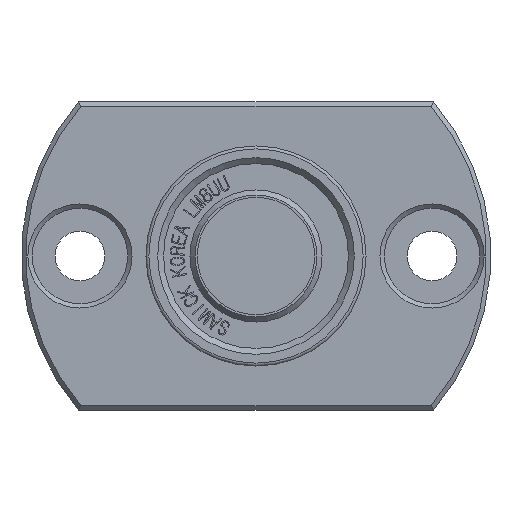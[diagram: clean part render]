
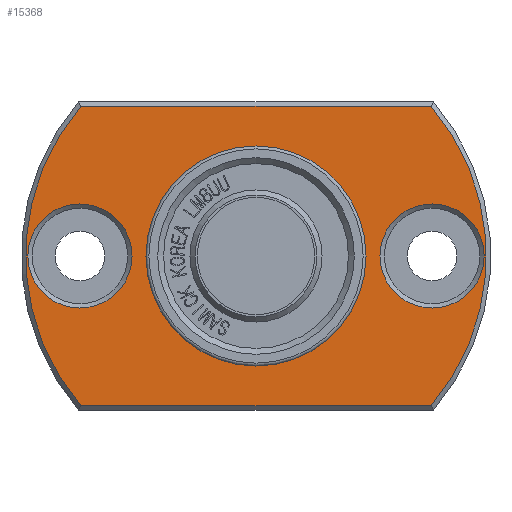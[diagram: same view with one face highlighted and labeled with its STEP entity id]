
A CAD part, front view. The second image highlights one B-rep face of the part: STEP entity #15368.
In plain terms, the highlighted planar face has unit normal (0, -1, 0).
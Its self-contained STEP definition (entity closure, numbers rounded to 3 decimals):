
#2551=FACE_BOUND('',#3665,.T.);
#2552=FACE_BOUND('',#3666,.T.);
#2553=FACE_BOUND('',#3667,.T.);
#2609=PLANE('',#16221);
#2834=FACE_OUTER_BOUND('',#3664,.T.);
#3664=EDGE_LOOP('',(#10700,#10701,#10702,#10703));
#3665=EDGE_LOOP('',(#10704));
#3666=EDGE_LOOP('',(#10705,#10706));
#3667=EDGE_LOOP('',(#10707));
#4552=LINE('',#18275,#5648);
#4553=LINE('',#18279,#5649);
#5648=VECTOR('',#16546,10.);
#5649=VECTOR('',#16549,10.);
#6743=CIRCLE('',#16218,3.55);
#6746=CIRCLE('',#16222,15.7);
#6747=CIRCLE('',#16223,15.7);
#6748=CIRCLE('',#16224,3.55);
#6749=CIRCLE('',#16225,7.5);
#6750=CIRCLE('',#16226,7.5);
#6809=VERTEX_POINT('',#18265);
#6812=VERTEX_POINT('',#18273);
#6813=VERTEX_POINT('',#18274);
#6814=VERTEX_POINT('',#18276);
#6815=VERTEX_POINT('',#18278);
#6816=VERTEX_POINT('',#18281);
#6817=VERTEX_POINT('',#18283);
#6818=VERTEX_POINT('',#18284);
#8365=EDGE_CURVE('',#6809,#6809,#6743,.T.);
#8369=EDGE_CURVE('',#6812,#6813,#4552,.T.);
#8370=EDGE_CURVE('',#6812,#6814,#6746,.T.);
#8371=EDGE_CURVE('',#6815,#6814,#4553,.T.);
#8372=EDGE_CURVE('',#6815,#6813,#6747,.T.);
#8373=EDGE_CURVE('',#6816,#6816,#6748,.T.);
#8374=EDGE_CURVE('',#6817,#6818,#6749,.T.);
#8375=EDGE_CURVE('',#6818,#6817,#6750,.T.);
#10700=ORIENTED_EDGE('',*,*,#8369,.F.);
#10701=ORIENTED_EDGE('',*,*,#8370,.T.);
#10702=ORIENTED_EDGE('',*,*,#8371,.F.);
#10703=ORIENTED_EDGE('',*,*,#8372,.T.);
#10704=ORIENTED_EDGE('',*,*,#8373,.F.);
#10705=ORIENTED_EDGE('',*,*,#8374,.F.);
#10706=ORIENTED_EDGE('',*,*,#8375,.F.);
#10707=ORIENTED_EDGE('',*,*,#8365,.F.);
#15368=ADVANCED_FACE('',(#2834,#2551,#2552,#2553),#2609,.T.);
#16218=AXIS2_PLACEMENT_3D('',#18266,#16537,#16538);
#16221=AXIS2_PLACEMENT_3D('',#18272,#16544,#16545);
#16222=AXIS2_PLACEMENT_3D('',#18277,#16547,#16548);
#16223=AXIS2_PLACEMENT_3D('',#18280,#16550,#16551);
#16224=AXIS2_PLACEMENT_3D('',#18282,#16552,#16553);
#16225=AXIS2_PLACEMENT_3D('',#18285,#16554,#16555);
#16226=AXIS2_PLACEMENT_3D('',#18286,#16556,#16557);
#16537=DIRECTION('center_axis',(0.,-1.,0.));
#16538=DIRECTION('ref_axis',(-1.,0.,0.));
#16544=DIRECTION('center_axis',(0.,-1.,0.));
#16545=DIRECTION('ref_axis',(0.,0.,-1.));
#16546=DIRECTION('',(-1.,0.,0.));
#16547=DIRECTION('center_axis',(0.,-1.,0.));
#16548=DIRECTION('ref_axis',(1.,0.,0.));
#16549=DIRECTION('',(1.,0.,0.));
#16550=DIRECTION('center_axis',(0.,-1.,0.));
#16551=DIRECTION('ref_axis',(1.,0.,0.));
#16552=DIRECTION('center_axis',(0.,-1.,0.));
#16553=DIRECTION('ref_axis',(-1.,0.,0.));
#16554=DIRECTION('center_axis',(0.,-1.,0.));
#16555=DIRECTION('ref_axis',(1.,0.,0.));
#16556=DIRECTION('center_axis',(0.,-1.,0.));
#16557=DIRECTION('ref_axis',(1.,0.,0.));
#18265=CARTESIAN_POINT('',(-8.45,-22.5,0.));
#18266=CARTESIAN_POINT('Origin',(-12.,-22.5,0.));
#18272=CARTESIAN_POINT('Origin',(11.6,-22.5,0.));
#18273=CARTESIAN_POINT('',(11.935,-22.5,-10.2));
#18274=CARTESIAN_POINT('',(-11.935,-22.5,-10.2));
#18275=CARTESIAN_POINT('',(14.55,-22.5,-10.2));
#18276=CARTESIAN_POINT('',(11.935,-22.5,10.2));
#18277=CARTESIAN_POINT('Origin',(0.,-22.5,0.));
#18278=CARTESIAN_POINT('',(-11.935,-22.5,10.2));
#18279=CARTESIAN_POINT('',(-2.95,-22.5,10.2));
#18280=CARTESIAN_POINT('Origin',(0.,-22.5,0.));
#18281=CARTESIAN_POINT('',(15.55,-22.5,0.));
#18282=CARTESIAN_POINT('Origin',(12.,-22.5,0.));
#18283=CARTESIAN_POINT('',(7.5,-22.5,0.));
#18284=CARTESIAN_POINT('',(-7.5,-22.5,0.));
#18285=CARTESIAN_POINT('Origin',(0.,-22.5,0.));
#18286=CARTESIAN_POINT('Origin',(0.,-22.5,0.));
